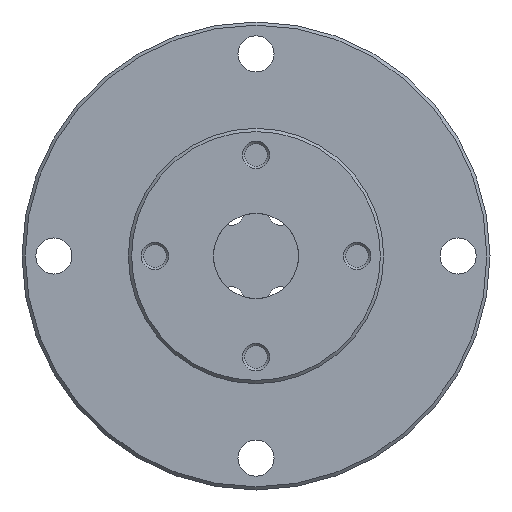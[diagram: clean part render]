
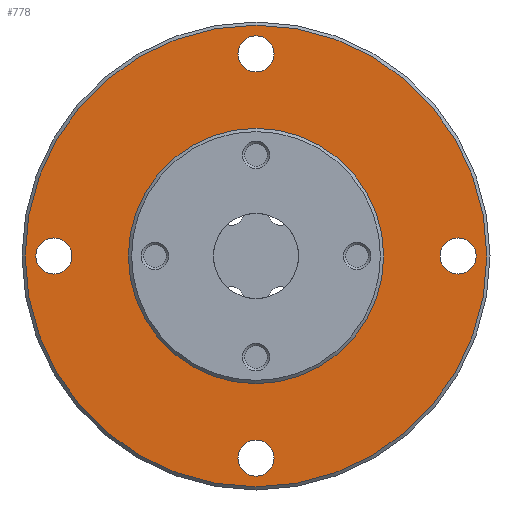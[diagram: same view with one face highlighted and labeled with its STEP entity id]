
A CAD part, left-side view. The second image highlights one B-rep face of the part: STEP entity #778.
In plain terms, the highlighted planar face has unit normal (-1, 0, 0).
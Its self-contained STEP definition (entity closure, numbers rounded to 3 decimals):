
#59=PLANE('',#903);
#163=ORIENTED_EDGE('',*,*,#293,.F.);
#164=ORIENTED_EDGE('',*,*,#294,.F.);
#165=ORIENTED_EDGE('',*,*,#295,.F.);
#166=ORIENTED_EDGE('',*,*,#296,.F.);
#167=ORIENTED_EDGE('',*,*,#297,.F.);
#168=ORIENTED_EDGE('',*,*,#292,.T.);
#292=EDGE_CURVE('',#366,#366,#439,.T.);
#293=EDGE_CURVE('',#367,#367,#440,.T.);
#294=EDGE_CURVE('',#368,#368,#441,.F.);
#295=EDGE_CURVE('',#369,#369,#442,.F.);
#296=EDGE_CURVE('',#370,#370,#443,.F.);
#297=EDGE_CURVE('',#371,#371,#444,.F.);
#366=VERTEX_POINT('',#1379);
#367=VERTEX_POINT('',#1382);
#368=VERTEX_POINT('',#1384);
#369=VERTEX_POINT('',#1386);
#370=VERTEX_POINT('',#1388);
#371=VERTEX_POINT('',#1390);
#439=CIRCLE('',#902,12.);
#440=CIRCLE('',#904,21.7);
#441=CIRCLE('',#905,1.7);
#442=CIRCLE('',#906,1.7);
#443=CIRCLE('',#907,1.7);
#444=CIRCLE('',#908,1.7);
#518=EDGE_LOOP('',(#163));
#519=EDGE_LOOP('',(#164));
#520=EDGE_LOOP('',(#165));
#521=EDGE_LOOP('',(#166));
#522=EDGE_LOOP('',(#167));
#523=EDGE_LOOP('',(#168));
#644=FACE_BOUND('',#518,.T.);
#645=FACE_BOUND('',#519,.T.);
#646=FACE_BOUND('',#520,.T.);
#647=FACE_BOUND('',#521,.T.);
#648=FACE_BOUND('',#522,.T.);
#649=FACE_BOUND('',#523,.T.);
#778=ADVANCED_FACE('',(#644,#645,#646,#647,#648,#649),#59,.F.);
#902=AXIS2_PLACEMENT_3D('',#1378,#1108,#1109);
#903=AXIS2_PLACEMENT_3D('',#1380,#1110,#1111);
#904=AXIS2_PLACEMENT_3D('',#1381,#1112,#1113);
#905=AXIS2_PLACEMENT_3D('',#1383,#1114,#1115);
#906=AXIS2_PLACEMENT_3D('',#1385,#1116,#1117);
#907=AXIS2_PLACEMENT_3D('',#1387,#1118,#1119);
#908=AXIS2_PLACEMENT_3D('',#1389,#1120,#1121);
#1108=DIRECTION('',(1.,0.,0.));
#1109=DIRECTION('',(0.,0.,-1.));
#1110=DIRECTION('',(1.,0.,0.));
#1111=DIRECTION('',(0.,0.,-1.));
#1112=DIRECTION('',(1.,0.,0.));
#1113=DIRECTION('',(0.,0.,-1.));
#1114=DIRECTION('',(1.,0.,0.));
#1115=DIRECTION('',(0.,0.,-1.));
#1116=DIRECTION('',(1.,0.,0.));
#1117=DIRECTION('',(0.,0.,-1.));
#1118=DIRECTION('',(1.,0.,0.));
#1119=DIRECTION('',(0.,0.,-1.));
#1120=DIRECTION('',(1.,0.,0.));
#1121=DIRECTION('',(0.,0.,-1.));
#1378=CARTESIAN_POINT('',(6.,0.,0.));
#1379=CARTESIAN_POINT('',(6.,0.,-12.));
#1380=CARTESIAN_POINT('',(6.,12.,0.));
#1381=CARTESIAN_POINT('',(6.,0.,0.));
#1382=CARTESIAN_POINT('',(6.,0.,-21.7));
#1383=CARTESIAN_POINT('',(6.,19.,0.));
#1384=CARTESIAN_POINT('',(6.,19.,-1.7));
#1385=CARTESIAN_POINT('',(6.,0.,19.));
#1386=CARTESIAN_POINT('',(6.,0.,17.3));
#1387=CARTESIAN_POINT('',(6.,-19.,0.));
#1388=CARTESIAN_POINT('',(6.,-19.,-1.7));
#1389=CARTESIAN_POINT('',(6.,0.,-19.));
#1390=CARTESIAN_POINT('',(6.,0.,-20.7));
